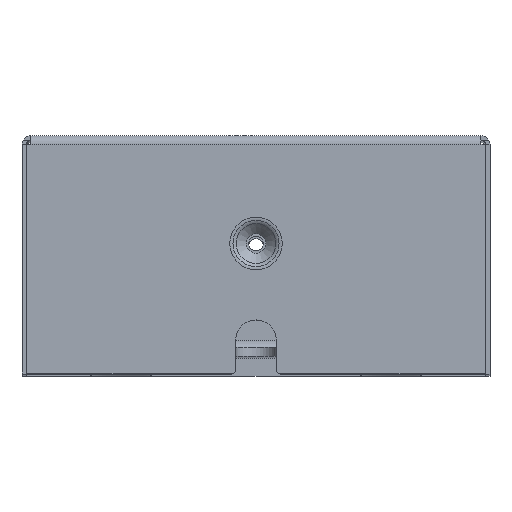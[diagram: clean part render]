
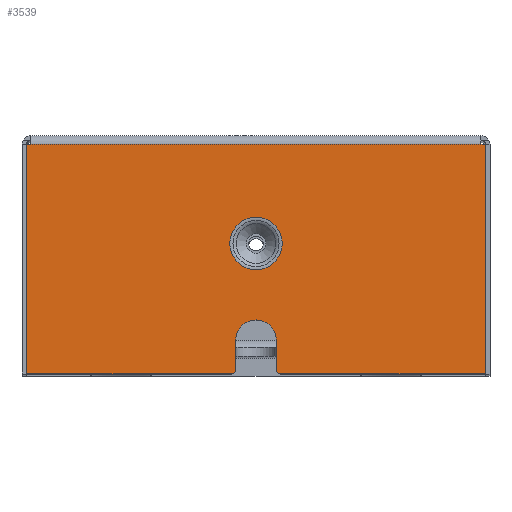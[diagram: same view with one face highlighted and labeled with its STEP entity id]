
A CAD part, top view. The second image highlights one B-rep face of the part: STEP entity #3539.
In plain terms, the highlighted planar face has unit normal (0, 0, 1) as drawn and (0, 0, -1) by its records, which use the part's own axes.
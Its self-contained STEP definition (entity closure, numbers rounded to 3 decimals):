
#113=FACE_BOUND('',#617,.T.);
#172=PLANE('',#3981);
#360=FACE_OUTER_BOUND('',#616,.T.);
#616=EDGE_LOOP('',(#3020,#3021,#3022,#3023,#3024,#3025,#3026,#3027,#3028,
#3029,#3030,#3031));
#617=EDGE_LOOP('',(#3032));
#872=LINE('',#5975,#1164);
#875=LINE('',#5981,#1167);
#876=LINE('',#5983,#1168);
#877=LINE('',#5985,#1169);
#878=LINE('',#5987,#1170);
#879=LINE('',#5989,#1171);
#880=LINE('',#5991,#1172);
#881=LINE('',#5993,#1173);
#882=LINE('',#5997,#1174);
#1164=VECTOR('',#4909,10.);
#1167=VECTOR('',#4914,10.);
#1168=VECTOR('',#4915,10.);
#1169=VECTOR('',#4916,10.);
#1170=VECTOR('',#4917,10.);
#1171=VECTOR('',#4918,10.);
#1172=VECTOR('',#4919,10.);
#1173=VECTOR('',#4920,10.);
#1174=VECTOR('',#4923,10.);
#1441=CIRCLE('',#3979,1.);
#1442=CIRCLE('',#3982,1.);
#1443=CIRCLE('',#3983,4.5);
#1444=CIRCLE('',#3984,5.828);
#1712=VERTEX_POINT('',#5968);
#1713=VERTEX_POINT('',#5970);
#1714=VERTEX_POINT('',#5974);
#1716=VERTEX_POINT('',#5980);
#1717=VERTEX_POINT('',#5982);
#1718=VERTEX_POINT('',#5984);
#1719=VERTEX_POINT('',#5986);
#1720=VERTEX_POINT('',#5988);
#1721=VERTEX_POINT('',#5990);
#1722=VERTEX_POINT('',#5992);
#1723=VERTEX_POINT('',#5994);
#1724=VERTEX_POINT('',#5996);
#1725=VERTEX_POINT('',#5999);
#2154=EDGE_CURVE('',#1712,#1713,#1441,.T.);
#2156=EDGE_CURVE('',#1714,#1713,#872,.T.);
#2159=EDGE_CURVE('',#1716,#1712,#875,.T.);
#2160=EDGE_CURVE('',#1717,#1716,#876,.T.);
#2161=EDGE_CURVE('',#1718,#1717,#877,.T.);
#2162=EDGE_CURVE('',#1719,#1718,#878,.T.);
#2163=EDGE_CURVE('',#1720,#1719,#879,.T.);
#2164=EDGE_CURVE('',#1720,#1721,#880,.T.);
#2165=EDGE_CURVE('',#1722,#1721,#881,.T.);
#2166=EDGE_CURVE('',#1723,#1722,#1442,.T.);
#2167=EDGE_CURVE('',#1723,#1724,#882,.T.);
#2168=EDGE_CURVE('',#1724,#1714,#1443,.T.);
#2169=EDGE_CURVE('',#1725,#1725,#1444,.T.);
#3020=ORIENTED_EDGE('',*,*,#2154,.F.);
#3021=ORIENTED_EDGE('',*,*,#2159,.F.);
#3022=ORIENTED_EDGE('',*,*,#2160,.F.);
#3023=ORIENTED_EDGE('',*,*,#2161,.F.);
#3024=ORIENTED_EDGE('',*,*,#2162,.F.);
#3025=ORIENTED_EDGE('',*,*,#2163,.F.);
#3026=ORIENTED_EDGE('',*,*,#2164,.T.);
#3027=ORIENTED_EDGE('',*,*,#2165,.F.);
#3028=ORIENTED_EDGE('',*,*,#2166,.F.);
#3029=ORIENTED_EDGE('',*,*,#2167,.T.);
#3030=ORIENTED_EDGE('',*,*,#2168,.T.);
#3031=ORIENTED_EDGE('',*,*,#2156,.T.);
#3032=ORIENTED_EDGE('',*,*,#2169,.F.);
#3539=ADVANCED_FACE('',(#360,#113),#172,.F.);
#3979=AXIS2_PLACEMENT_3D('',#5971,#4904,#4905);
#3981=AXIS2_PLACEMENT_3D('',#5979,#4912,#4913);
#3982=AXIS2_PLACEMENT_3D('',#5995,#4921,#4922);
#3983=AXIS2_PLACEMENT_3D('',#5998,#4924,#4925);
#3984=AXIS2_PLACEMENT_3D('',#6000,#4926,#4927);
#4904=DIRECTION('center_axis',(0.,0.,
1.));
#4905=DIRECTION('ref_axis',(0.707,-0.707,0.));
#4909=DIRECTION('',(0.,-1.,0.));
#4912=DIRECTION('center_axis',(0.,0.,
1.));
#4913=DIRECTION('ref_axis',(1.,0.,0.));
#4914=DIRECTION('',(1.,0.,0.));
#4915=DIRECTION('',(0.,-1.,0.));
#4916=DIRECTION('',(-1.,0.,0.));
#4917=DIRECTION('',(-1.,0.,0.));
#4918=DIRECTION('',(-1.,0.,0.));
#4919=DIRECTION('',(0.,-1.,0.));
#4920=DIRECTION('',(1.,0.,0.));
#4921=DIRECTION('center_axis',(0.,0.,
1.));
#4922=DIRECTION('ref_axis',(-0.707,-0.707,0.));
#4923=DIRECTION('',(0.,1.,0.));
#4924=DIRECTION('center_axis',(0.,0.,
1.));
#4925=DIRECTION('ref_axis',(-1.,0.,0.));
#4926=DIRECTION('center_axis',(0.,0.,
-1.));
#4927=DIRECTION('ref_axis',(0.,-1.,0.));
#5968=CARTESIAN_POINT('',(-5.5,0.,-158.75));
#5970=CARTESIAN_POINT('',(-4.5,1.,-158.75));
#5971=CARTESIAN_POINT('Origin',(-5.5,1.,-158.75));
#5974=CARTESIAN_POINT('',(-4.5,7.5,-158.75));
#5975=CARTESIAN_POINT('',(-4.5,16.5,-158.75));
#5979=CARTESIAN_POINT('Origin',(35.,25.5,-158.75));
#5980=CARTESIAN_POINT('',(-50.929,0.,-158.75));
#5981=CARTESIAN_POINT('',(-721.554,0.,-158.75));
#5982=CARTESIAN_POINT('',(-50.929,51.,-158.75));
#5983=CARTESIAN_POINT('',(-50.929,51.,-158.75));
#5984=CARTESIAN_POINT('',(-50.,51.,-158.75));
#5985=CARTESIAN_POINT('',(-701.554,51.,-158.75));
#5986=CARTESIAN_POINT('',(50.,51.,-158.75));
#5987=CARTESIAN_POINT('',(-25.,51.,-158.75));
#5988=CARTESIAN_POINT('',(50.929,51.,-158.75));
#5989=CARTESIAN_POINT('',(-701.554,51.,-158.75));
#5990=CARTESIAN_POINT('',(50.929,0.,-158.75));
#5991=CARTESIAN_POINT('',(50.929,51.,-158.75));
#5992=CARTESIAN_POINT('',(5.5,0.,-158.75));
#5993=CARTESIAN_POINT('',(-721.554,0.,-158.75));
#5994=CARTESIAN_POINT('',(4.5,1.,-158.75));
#5995=CARTESIAN_POINT('Origin',(5.5,1.,-158.75));
#5996=CARTESIAN_POINT('',(4.5,7.5,-158.75));
#5997=CARTESIAN_POINT('',(4.5,9.,-158.75));
#5998=CARTESIAN_POINT('Origin',(0.,7.5,
-158.75));
#5999=CARTESIAN_POINT('',(-5.828,29.,-158.75));
#6000=CARTESIAN_POINT('Origin',(0.,29.,-158.75));
